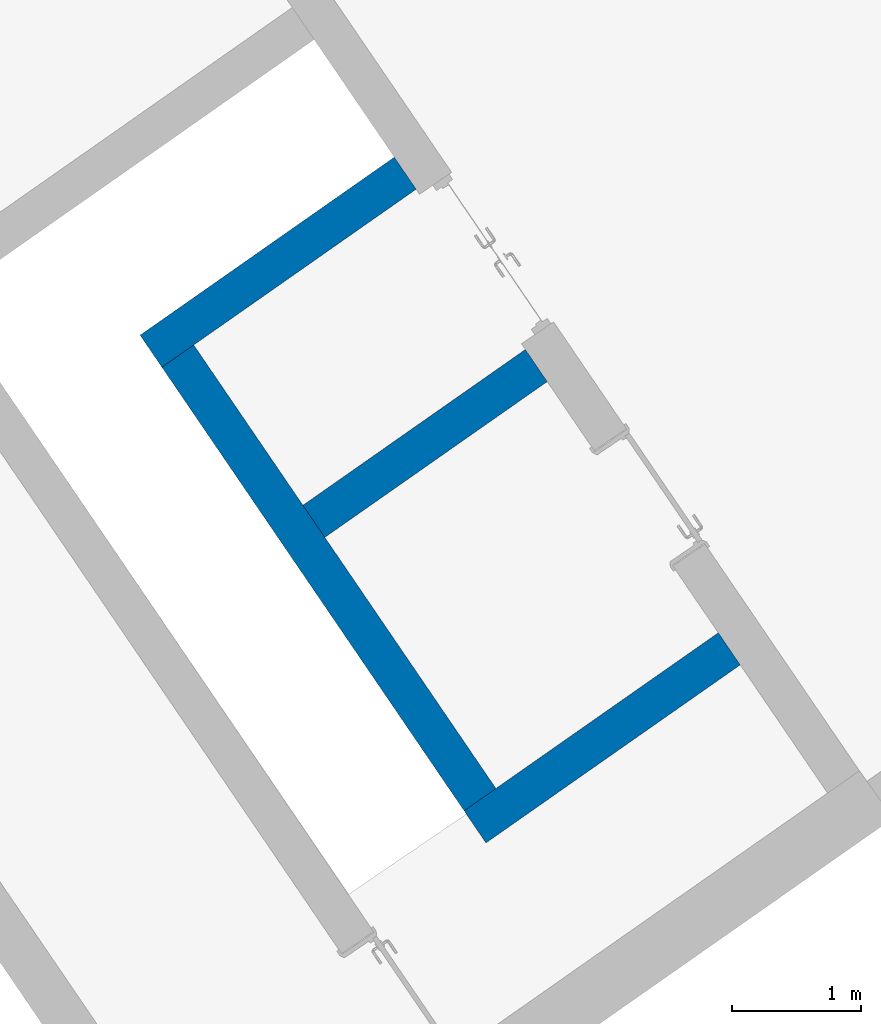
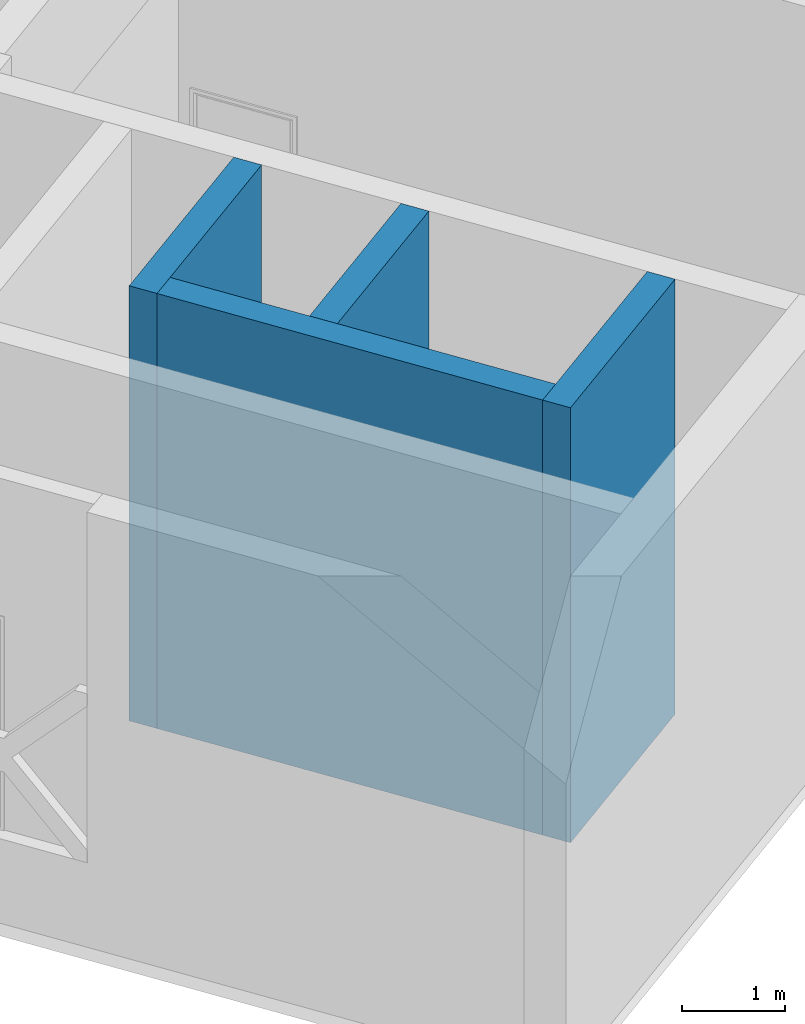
# One storey, part 60 of 157: 4 walls.
"""IFC2X3 building model written with IfcOpenShell, lengths in millimetres."""

import ifcopenshell
import ifcopenshell.guid

model = None  # the IFC model being written
_history = None  # IfcOwnerHistory: only IFC2X3 demands one
_inside = {}  # id of a spatial element -> (the spatial element, [elements in it])
_under = {}  # id of a project, library or spatial element -> (it, [spatial elements below it])
_declared = {}  # id of a project -> (the project, [libraries it declares])
_typed = {}  # id of a type object -> (the type object, [elements of that type])
_made_of = {}  # id of a material, layer set ... -> (it, [elements and type objects made of it])


def new_model(schema):
    """Start an empty IFC model of exactly this schema.

    Asked for "IFC4X3", IfcOpenShell would pick the latest addendum, in which some entities
    have other attributes; the version numbers below select the first issue.
    IFC2X3 requires an IfcOwnerHistory on every rooted entity: one is made here for all.
    """
    global model, _history
    if schema == "IFC4X3":
        model = ifcopenshell.file(schema_version=(4, 3, 0, 0))
    else:
        model = ifcopenshell.file(schema=schema)
    _inside.clear()
    _under.clear()
    _declared.clear()
    _typed.clear()
    _made_of.clear()
    _history = None
    if model.schema == "IFC2X3":
        org = make("IfcOrganization", Name="unknown")
        user = make(
            "IfcPersonAndOrganization",
            ThePerson=make("IfcPerson", FamilyName="unknown"),
            TheOrganization=org,
        )
        app = make(
            "IfcApplication",
            ApplicationDeveloper=org,
            Version="unknown",
            ApplicationFullName="unknown",
            ApplicationIdentifier="unknown",
        )
        _history = make(
            "IfcOwnerHistory",
            OwningUser=user,
            OwningApplication=app,
            ChangeAction="ADDED",
            CreationDate=0,
        )
    return model


def make(cls, **values):
    """One entity of the class cls with the attributes given. An attribute that is None is left unset."""
    return model.create_entity(
        cls, **{name: value for name, value in values.items() if value is not None}
    )


def entity(cls, *values):
    """Any entity or typed value of the class cls, its attributes in the order of the schema. None: left unset."""
    e = model.create_entity(cls)
    for i, value in enumerate(values):
        if value is not None:
            e[i] = value
    return e


def rooted(cls, **values):
    """An entity with a GlobalId (a new one), such as an element, a storey or a relation."""
    return make(cls, GlobalId=ifcopenshell.guid.new(), OwnerHistory=_history, **values)


def si_unit(unit_type, name, prefix=None):
    """IfcSIUnit, for example si_unit("LENGTHUNIT", "METRE", prefix="MILLI")."""
    return make("IfcSIUnit", UnitType=unit_type, Prefix=prefix, Name=name)


def converted_unit(unit_type, name, factor, base, dimensions=None, offset=None):
    """IfcConversionBasedUnit, such as the inch: factor (a typed value) times the base unit."""
    return make(
        "IfcConversionBasedUnit"
        if offset is None
        else "IfcConversionBasedUnitWithOffset",
        ConversionOffset=offset,
        Dimensions=None
        if dimensions is None
        else entity("IfcDimensionalExponents", *dimensions),
        UnitType=unit_type,
        Name=name,
        ConversionFactor=make(
            "IfcMeasureWithUnit", ValueComponent=factor, UnitComponent=base
        ),
    )


def derived_unit(unit_type, elements):
    """IfcDerivedUnit: a product of units, each with its exponent."""
    return make(
        "IfcDerivedUnit",
        Elements=[
            make("IfcDerivedUnitElement", Unit=unit, Exponent=power)
            for unit, power in elements
        ],
        UnitType=unit_type,
    )


def assignment(units):
    """IfcUnitAssignment: the units of a project."""
    return None if units is None else make("IfcUnitAssignment", Units=units)


def point(xyz):
    """IfcCartesianPoint."""
    return None if xyz is None else make("IfcCartesianPoint", Coordinates=xyz)


def direction(xyz):
    """IfcDirection."""
    return None if xyz is None else make("IfcDirection", DirectionRatios=xyz)


def frame(location, z_axis=None, x_axis=None):
    """IfcAxis2Placement3D, a coordinate frame: its origin and axes. An axis left out is left unset."""
    return make(
        "IfcAxis2Placement3D",
        Location=point(location),
        Axis=direction(z_axis),
        RefDirection=direction(x_axis),
    )


def origin():
    """The frame at (0, 0, 0) with its axes left unset."""
    return frame((0.0, 0.0, 0.0))


def place(relative_to, where):
    """IfcLocalPlacement: puts the frame where relative to a parent placement (None: the world)."""
    return make(
        "IfcLocalPlacement", PlacementRelTo=relative_to, RelativePlacement=where
    )


def context(
    kind, dimensions, precision=None, world=None, true_north=None, identifier=None
):
    """IfcGeometricRepresentationContext, for example the 3D "Model" context."""
    return make(
        "IfcGeometricRepresentationContext",
        ContextIdentifier=identifier,
        ContextType=kind,
        CoordinateSpaceDimension=dimensions,
        Precision=precision,
        WorldCoordinateSystem=world,
        TrueNorth=true_north,
    )


def subcontext(parent, identifier, kind, view, scale=None):
    """IfcGeometricRepresentationSubContext, for example "Body" below "Model"."""
    return make(
        "IfcGeometricRepresentationSubContext",
        ContextIdentifier=identifier,
        ContextType=kind,
        ParentContext=parent,
        TargetScale=scale,
        TargetView=view,
    )


def project(units=None, contexts=None):
    """IfcProject with its units and contexts."""
    return rooted(
        "IfcProject",
        Name="project",
        RepresentationContexts=contexts,
        UnitsInContext=assignment(units),
    )


def spatial(cls, under=None, at=None, **own):
    """A site, building, storey or space (cls), placed at a placement, below another one or the project."""
    s = rooted(cls, ObjectPlacement=at, **own)
    if under is not None:
        _under.setdefault(under.id(), (under, []))[1].append(s)
    return s


def polyline(points):
    """IfcPolyline through the points."""
    return make("IfcPolyline", Points=[point(p) for p in points])


def outline(outer, holes=None, kind="AREA"):
    """IfcArbitraryClosedProfileDef: a profile drawn as a closed curve; with holes, ...WithVoids."""
    if holes is None:
        return make("IfcArbitraryClosedProfileDef", ProfileType=kind, OuterCurve=outer)
    return make(
        "IfcArbitraryProfileDefWithVoids",
        ProfileType=kind,
        OuterCurve=outer,
        InnerCurves=holes,
    )


def extrude(swept, where, along, depth):
    """IfcExtrudedAreaSolid: the profile swept, set in the frame where, extruded along a direction by depth."""
    return make(
        "IfcExtrudedAreaSolid",
        SweptArea=swept,
        Position=where,
        ExtrudedDirection=direction(along),
        Depth=depth,
    )


def shape(context_of_items, identifier, shape_type, items):
    """IfcShapeRepresentation: the items that make up one representation, for example the "Body"."""
    return make(
        "IfcShapeRepresentation",
        ContextOfItems=context_of_items,
        RepresentationIdentifier=identifier,
        RepresentationType=shape_type,
        Items=items,
    )


def material(Name=None, Category=None):
    """IfcMaterial."""
    return make("IfcMaterial", Name=Name, Category=Category)


def layer(
    of_material, thickness, ventilated=None, Name=None, Category=None, Priority=None
):
    """IfcMaterialLayer: one layer of a wall or slab, of a material (None: an air gap)."""
    return make(
        "IfcMaterialLayer",
        Material=of_material,
        LayerThickness=thickness,
        IsVentilated=ventilated,
        Name=Name,
        Category=Category,
        Priority=Priority,
    )


def layer_set(layers, Name=None):
    """IfcMaterialLayerSet."""
    return make("IfcMaterialLayerSet", MaterialLayers=layers, LayerSetName=Name)


def layer_usage(for_layer_set, set_direction, sense, offset, extent=None):
    """IfcMaterialLayerSetUsage: how a layer set lies in its element."""
    return make(
        "IfcMaterialLayerSetUsage",
        ForLayerSet=for_layer_set,
        LayerSetDirection=set_direction,
        DirectionSense=sense,
        OffsetFromReferenceLine=offset,
        ReferenceExtent=extent,
    )


def made_of(thing, what):
    """Note that an element or type object is made of a material, layer set ...; save() writes the relation."""
    if what is not None:
        _made_of.setdefault(what.id(), (what, []))[1].append(thing)
    return thing


def type_object(cls, material=None, **own):
    """A type object (cls), such as IfcWallType, which elements share."""
    return made_of(rooted(cls, **own), material)


def element(
    cls,
    number,
    at=None,
    inside=None,
    cuts=None,
    type_object=None,
    material=None,
    context=None,
    identifier="Body",
    shape_type=None,
    held_by="IfcProductDefinitionShape",
    body=None,
    shapes=None,
    **own,
):
    """One element of the class cls, such as IfcWall. Its Tag is "e" and its number.

    at: its placement. inside: the storey or other place that contains it. cuts: it is an
    opening in that element (IfcRelVoidsElement). A single representation is given by context,
    identifier, shape_type and body (its items); several are given by shapes. held_by: the class
    of the entity that holds the representations. save() writes the other relations.
    """
    e = rooted(cls, Tag="e%d" % number, ObjectPlacement=at, **own)
    if body is not None:
        shapes = [shape(context, identifier, shape_type, body)]
    if shapes is not None:
        e.Representation = make(held_by, Representations=shapes)
    if inside is not None:
        _inside.setdefault(inside.id(), (inside, []))[1].append(e)
    if cuts is not None:
        rooted(
            "IfcRelVoidsElement", RelatingBuildingElement=cuts, RelatedOpeningElement=e
        )
    if type_object is not None:
        _typed.setdefault(type_object.id(), (type_object, []))[1].append(e)
    return made_of(e, material)


def aggregate(whole, parts):
    """IfcRelAggregates: a whole, such as a stair, and the parts it consists of."""
    return rooted("IfcRelAggregates", RelatingObject=whole, RelatedObjects=parts)


def save(model, path):
    """Write the relations noted so far, then the file.

    IfcRelAggregates (storeys below a building ...), IfcRelContainedInSpatialStructure (elements
    in a storey), IfcRelDefinesByType, IfcRelAssociatesMaterial and IfcRelDeclares: one each for
    every whole, place, type object, material and project.
    """
    for whole, parts in _under.values():
        aggregate(whole, parts)
    for where, things in _inside.values():
        rooted(
            "IfcRelContainedInSpatialStructure",
            RelatedElements=things,
            RelatingStructure=where,
        )
    for kind, things in _typed.values():
        rooted("IfcRelDefinesByType", RelatedObjects=things, RelatingType=kind)
    for what, things in _made_of.values():
        rooted("IfcRelAssociatesMaterial", RelatedObjects=things, RelatingMaterial=what)
    for by, libraries in _declared.values():
        rooted("IfcRelDeclares", RelatingContext=by, RelatedDefinitions=libraries)
    model.write(path)


model = new_model("IFC2X3")

# Units and contexts
model_context = context("Model", 3, precision=0.01, world=origin(), true_north=direction((6.123031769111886e-17, 1.0)))
body_context = subcontext(model_context, "Body", "Model", "MODEL_VIEW")
ifc_project = project(units=[si_unit("LENGTHUNIT", "METRE", prefix="MILLI"), si_unit("AREAUNIT", "SQUARE_METRE"), si_unit("VOLUMEUNIT", "CUBIC_METRE"), converted_unit("PLANEANGLEUNIT", "DEGREE", entity("IfcRatioMeasure", 0.017453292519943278), si_unit("PLANEANGLEUNIT", "RADIAN"), dimensions=[0, 0, 0, 0, 0, 0, 0]), si_unit("MASSUNIT", "GRAM", prefix="KILO"), derived_unit("MASSDENSITYUNIT", [(si_unit("MASSUNIT", "GRAM", prefix="KILO"), 1), (si_unit("LENGTHUNIT", "METRE"), -3)]), derived_unit("MOMENTOFINERTIAUNIT", [(si_unit("LENGTHUNIT", "METRE"), 4)]), si_unit("TIMEUNIT", "SECOND"), si_unit("FREQUENCYUNIT", "HERTZ"), si_unit("THERMODYNAMICTEMPERATUREUNIT", "DEGREE_CELSIUS"), derived_unit("THERMALTRANSMITTANCEUNIT", [(si_unit("MASSUNIT", "GRAM", prefix="KILO"), 1), (si_unit("THERMODYNAMICTEMPERATUREUNIT", "KELVIN"), -1), (si_unit("TIMEUNIT", "SECOND"), -3)]), derived_unit("THERMALCONDUCTANCEUNIT", [(si_unit("MASSUNIT", "GRAM", prefix="KILO"), 1), (si_unit("LENGTHUNIT", "METRE"), 1), (si_unit("THERMODYNAMICTEMPERATUREUNIT", "KELVIN"), -1), (si_unit("TIMEUNIT", "SECOND"), -3)]), derived_unit("VOLUMETRICFLOWRATEUNIT", [(si_unit("LENGTHUNIT", "METRE"), 3), (si_unit("TIMEUNIT", "SECOND"), -1)]), derived_unit("MASSFLOWRATEUNIT", [(si_unit("MASSUNIT", "GRAM", prefix="KILO"), 1), (si_unit("TIMEUNIT", "SECOND"), -1)]), derived_unit("ROTATIONALFREQUENCYUNIT", [(si_unit("TIMEUNIT", "SECOND"), -1)]), si_unit("ELECTRICCURRENTUNIT", "AMPERE"), si_unit("ELECTRICVOLTAGEUNIT", "VOLT"), si_unit("POWERUNIT", "WATT"), converted_unit("FORCEUNIT", "KIP", entity("IfcRatioMeasure", 2.088543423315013e-05), si_unit("FORCEUNIT", "NEWTON"), dimensions=[1, 1, -2, 0, 0, 0, 0]), si_unit("ILLUMINANCEUNIT", "LUX"), si_unit("LUMINOUSFLUXUNIT", "LUMEN"), si_unit("LUMINOUSINTENSITYUNIT", "CANDELA"), derived_unit("USERDEFINED", [(si_unit("MASSUNIT", "GRAM", prefix="KILO"), -1), (si_unit("LENGTHUNIT", "METRE"), -2), (si_unit("TIMEUNIT", "SECOND"), 3), (si_unit("LUMINOUSFLUXUNIT", "LUMEN"), 1)]), derived_unit("USERDEFINED", [(si_unit("MASSUNIT", "GRAM", prefix="KILO"), 1), (si_unit("LENGTHUNIT", "METRE"), 3), (si_unit("TIMEUNIT", "SECOND"), -3), (si_unit("ELECTRICCURRENTUNIT", "AMPERE"), -2)]), derived_unit("USERDEFINED", [(si_unit("LENGTHUNIT", "METRE"), 2), (si_unit("TIMEUNIT", "SECOND"), -2)]), derived_unit("SOUNDPOWERUNIT", [(si_unit("MASSUNIT", "GRAM", prefix="KILO"), 1), (si_unit("LENGTHUNIT", "METRE"), 2), (si_unit("TIMEUNIT", "SECOND"), -3)]), derived_unit("SOUNDPRESSUREUNIT", [(si_unit("MASSUNIT", "GRAM", prefix="KILO"), 1), (si_unit("LENGTHUNIT", "METRE"), -1), (si_unit("TIMEUNIT", "SECOND"), -2)]), derived_unit("LINEARVELOCITYUNIT", [(si_unit("LENGTHUNIT", "METRE"), 1), (si_unit("TIMEUNIT", "SECOND"), -1)]), si_unit("PRESSUREUNIT", "PASCAL"), derived_unit("USERDEFINED", [(si_unit("LENGTHUNIT", "METRE"), -2), (si_unit("MASSUNIT", "GRAM", prefix="KILO"), 1), (si_unit("TIMEUNIT", "SECOND"), -2)]), derived_unit("LINEARFORCEUNIT", [(si_unit("MASSUNIT", "GRAM", prefix="KILO"), 1), (si_unit("LENGTHUNIT", "METRE"), 1), (si_unit("TIMEUNIT", "SECOND"), -2), (si_unit("LENGTHUNIT", "METRE"), -1)]), derived_unit("PLANARFORCEUNIT", [(si_unit("MASSUNIT", "GRAM", prefix="KILO"), 1), (si_unit("LENGTHUNIT", "METRE"), 1), (si_unit("TIMEUNIT", "SECOND"), -2), (si_unit("LENGTHUNIT", "METRE"), -2)]), derived_unit("SPECIFICHEATCAPACITYUNIT", [(si_unit("LENGTHUNIT", "METRE"), 2), (si_unit("TIMEUNIT", "SECOND"), -2), (si_unit("THERMODYNAMICTEMPERATUREUNIT", "KELVIN"), -1)]), derived_unit("VAPORPERMEABILITYUNIT", [(si_unit("TIMEUNIT", "SECOND"), 1), (si_unit("LENGTHUNIT", "METRE"), -1)]), derived_unit("DYNAMICVISCOSITYUNIT", [(si_unit("MASSUNIT", "GRAM", prefix="KILO"), 1), (si_unit("LENGTHUNIT", "METRE"), -1), (si_unit("TIMEUNIT", "SECOND"), -1)]), derived_unit("THERMALEXPANSIONCOEFFICIENTUNIT", [(si_unit("THERMODYNAMICTEMPERATUREUNIT", "KELVIN"), -1)])], contexts=[model_context])

# Site, building, storey
site_placement = place(None, frame((0.0, 0.0, 0.0), z_axis=(0.0, 0.0, 1.0), x_axis=(0.8191520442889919, 0.5735764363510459, 0.0)))
site = spatial("IfcSite", under=ifc_project, at=site_placement, Name="Default", CompositionType="ELEMENT")
building_placement = place(site_placement, origin())
building = spatial("IfcBuilding", under=site, at=building_placement, CompositionType="ELEMENT")
storey_placement = place(building_placement, origin())
storey = spatial("IfcBuildingStorey", under=building, at=storey_placement, Name="1.EG +0.00", CompositionType="ELEMENT", Elevation=-4.331468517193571e-12)

# Walls
ifc_material = material(Name="Analytical Wall Surface_CJC")
ifc_layer = layer(ifc_material, 300.0)
ifc_layer_set = layer_set([ifc_layer], Name="Basic Wall:Wand_Innen_30")
ifc_layer_usage = layer_usage(ifc_layer_set, "AXIS2", "NEGATIVE", 150.0)
wall_type = type_object("IfcWallType", Name="Basic Wall:Wand_Innen_30", PredefinedType="STANDARD", material=ifc_layer_set)
wall_1_placement = place(storey_placement, frame((-220261.78008304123, 53871.358914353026, 0.0)))
element("IfcWallStandardCase", 1, at=wall_1_placement, inside=storey, type_object=wall_type, material=ifc_layer_usage, Name="Basic Wall:Wand_Innen_30", ObjectType="Basic Wall:Wand_Innen_30", context=body_context, shape_type="SweptSolid", body=[
    extrude(outline(polyline([(2400.0096501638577, -150.0), (2403.830870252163, 150.0), (303.8434950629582, 150.0), (3.8191857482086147, 150.0), (0.0, -150.0), (2400.0096501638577, -150.0)])), origin(), (0.0, 0.0, 1.0), 5150.000000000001),
])
wall_2_placement = place(storey_placement, frame((-217801.26778147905, 58321.35891435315, 0.0), z_axis=(0.0, 0.0, 1.0), x_axis=(-1.0, 0.0, 0.0)))
element("IfcWallStandardCase", 2, at=wall_2_placement, inside=storey, type_object=wall_type, material=ifc_layer_usage, Name="Basic Wall:Wand_Innen_30", ObjectType="Basic Wall:Wand_Innen_30", context=body_context, shape_type="SweptSolid", body=[
    extrude(outline(polyline([(2400.041860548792, -150.0), (2403.8610462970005, 150.0), (2103.836736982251, 150.0), (3.821220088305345, 150.0), (0.0, -150.0), (2400.041860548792, -150.0)])), origin(), (0.0, 0.0, 1.0), 5150.000000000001),
])
wall_3_placement = place(storey_placement, frame((-220107.97305096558, 54019.449476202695, 0.0), z_axis=(0.0, 0.0, 1.0), x_axis=(0.012729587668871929, 0.9999189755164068, 0.0)))
element("IfcWallStandardCase", 3, at=wall_3_placement, inside=storey, type_object=wall_type, material=ifc_layer_usage, Name="Basic Wall:Wand_Innen_30", ObjectType="Basic Wall:Wand_Innen_30", context=body_context, shape_type="SweptSolid", body=[
    extrude(outline(polyline([(4154.15546460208, -150.0), (4150.336278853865, 150.0), (0.0, 150.0), (3.8191857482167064, -150.0), (2354.0096087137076, -150.0), (2654.0339180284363, -150.0), (4154.15546460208, -150.0)])), origin(), (0.0, 0.0, 1.0), 5150.000000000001),
])
wall_4_placement = place(storey_placement, frame((-217824.19510200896, 56521.35891435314, 0.0), z_axis=(0.0, 0.0, 1.0), x_axis=(-1.0, 0.0, 0.0)))
element("IfcWallStandardCase", 4, at=wall_4_placement, inside=storey, type_object=wall_type, material=ifc_layer_usage, Name="Basic Wall:Wand_Innen_30", ObjectType="Basic Wall:Wand_Innen_30", context=body_context, shape_type="SweptSolid", body=[
    extrude(outline(polyline([(2100.0053451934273, -150.0), (2103.824530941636, 150.0), (3.821220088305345, 150.0), (0.0, -150.0), (2100.0053451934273, -150.0)])), origin(), (0.0, 0.0, 1.0), 5150.000000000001),
])

save(model, "model.ifc")
